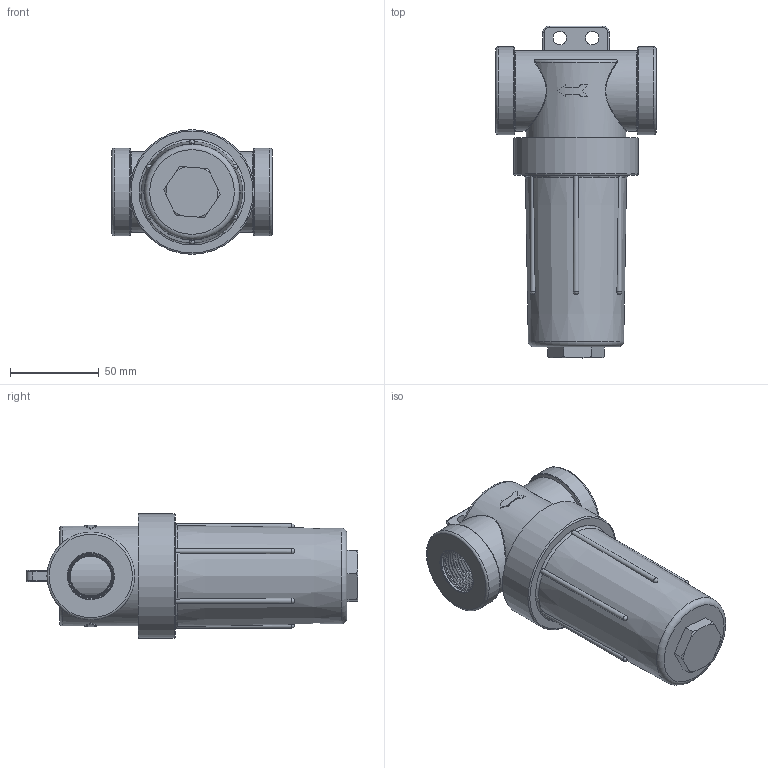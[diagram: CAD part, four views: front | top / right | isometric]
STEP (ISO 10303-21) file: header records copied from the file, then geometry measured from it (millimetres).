
FILE_DESCRIPTION(/* description */ ('Alibre Inc.'),/* implementation_level */ '2;1');
FILE_NAME(/* name */ 'export0',/* time_stamp */ '2019-10-02T14:30:10-04:00',/* author */ (''),/* organization */ (''),/* preprocessor_version */ 'ST-DEVELOPER v17',/* originating_system */ 'Alibre',/* authorisation */ '');
FILE_SCHEMA (('CONFIG_CONTROL_DESIGN'));
Length unit declared in the file: inch
Products named in the file (9): ID_1; ID_2; ID_3; ID_4; ID_5
Bounding box: 90.42 x 187.45 x 70.36 mm (x, y, z)
Volume: 228189.4 mm3; surface area: 143409.8 mm2
Topology: 9 solids, 10 shells, 313 faces, 813 edges, 531 vertices
Faces by surface type: plane 111, cone 92, cylinder 56, bspline 28, torus 20, sphere 6
Full cylindrical faces by diameter (mm): 7.62 x2, 12.47 x1, 22.448 x1, 25.4 x1, 28.448 x1, 30.298 x1, 32.512 x1, 34.036 x2, 34.544 x1, 36.147 x1, 39.116 x1, 39.988 x1, 40.64 x1, 41.148 x1, 42.164 x2, 42.672 x2, 45.466 x1, 48.345 x1, 49.53 x2, 49.869 x1, 51.533 x1, 51.562 x1, 52.019 x1, 56.386 x1, 56.388 x2, 56.896 x1, 70.358 x1
Entity records: 80526 total; most frequent: CARTESIAN_POINT 73334, ORIENTED_EDGE 1378, DIRECTION 1031, EDGE_CURVE 689, VERTEX_POINT 478, AXIS2_PLACEMENT_3D 465, FACE_BOUND 393, EDGE_LOOP 392
